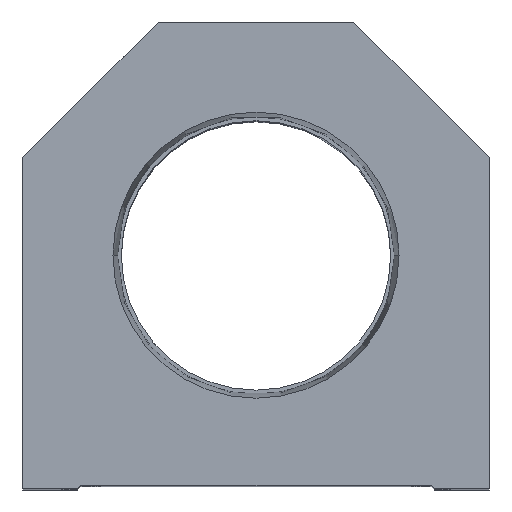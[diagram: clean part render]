
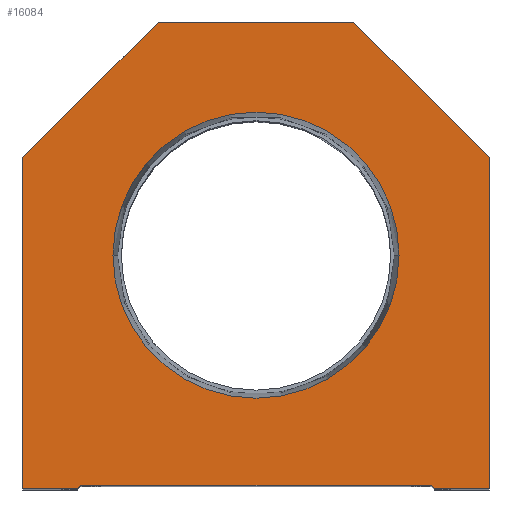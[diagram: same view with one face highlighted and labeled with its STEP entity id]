
A CAD part, top view. The second image highlights one B-rep face of the part: STEP entity #16084.
In plain terms, the highlighted planar face has unit normal (0, 0, 1).
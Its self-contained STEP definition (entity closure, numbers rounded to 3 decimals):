
#77 = DIRECTION ( 'NONE',  ( 0., 0., 1. ) ) ;
#100 = EDGE_CURVE ( 'NONE', #15852, #15869, #14889, .T. ) ;
#144 = VERTEX_POINT ( 'NONE', #17990 ) ;
#386 = VERTEX_POINT ( 'NONE', #16296 ) ;
#475 = VERTEX_POINT ( 'NONE', #17542 ) ;
#547 = VECTOR ( 'NONE', #2392, 1000. ) ;
#554 = VECTOR ( 'NONE', #14043, 1000. ) ;
#638 = CARTESIAN_POINT ( 'NONE',  ( 38.1, 54.1, 0. ) ) ;
#717 = VERTEX_POINT ( 'NONE', #8094 ) ;
#737 = DIRECTION ( 'NONE',  ( -1., 0., 0. ) ) ;
#849 = VECTOR ( 'NONE', #737, 1000. ) ;
#1797 = CIRCLE ( 'NONE', #15061, 23.374 ) ;
#1889 = AXIS2_PLACEMENT_3D ( 'NONE', #7056, #5214, #6859 ) ;
#2392 = DIRECTION ( 'NONE',  ( 1., 0., 0. ) ) ;
#2618 = ORIENTED_EDGE ( 'NONE', *, *, #100, .T. ) ;
#2648 = DIRECTION ( 'NONE',  ( 0.707, -0.707, 0. ) ) ;
#2651 = EDGE_CURVE ( 'NONE', #144, #3622, #5846, .T. ) ;
#3041 = CARTESIAN_POINT ( 'NONE',  ( -38.1, 0., 0. ) ) ;
#3321 = EDGE_LOOP ( 'NONE', ( #3494, #12179, #6730, #9535, #10028, #2618, #11641, #6638, #13936, #9076 ) ) ;
#3494 = ORIENTED_EDGE ( 'NONE', *, *, #6893, .T. ) ;
#3622 = VERTEX_POINT ( 'NONE', #9072 ) ;
#3718 = EDGE_CURVE ( 'NONE', #16559, #717, #9760, .T. ) ;
#3820 = VECTOR ( 'NONE', #2648, 1000. ) ;
#3840 = CARTESIAN_POINT ( 'NONE',  ( 38.1, 54.1, 0. ) ) ;
#3855 = CARTESIAN_POINT ( 'NONE',  ( -16., 76.2, 0. ) ) ;
#3990 = LINE ( 'NONE', #5621, #6335 ) ;
#4668 = VERTEX_POINT ( 'NONE', #3855 ) ;
#4677 = EDGE_CURVE ( 'NONE', #3622, #144, #1797, .T. ) ;
#5025 = AXIS2_PLACEMENT_3D ( 'NONE', #11625, #77, #14747 ) ;
#5214 = DIRECTION ( 'NONE',  ( 0., 0., 1. ) ) ;
#5240 = DIRECTION ( 'NONE',  ( -0.707, -0.707, 0. ) ) ;
#5529 = CARTESIAN_POINT ( 'NONE',  ( 14.55, 14.55, 0. ) ) ;
#5621 = CARTESIAN_POINT ( 'NONE',  ( -14.55, 14.55, 0. ) ) ;
#5667 = DIRECTION ( 'NONE',  ( 1., 0., 0. ) ) ;
#5772 = VECTOR ( 'NONE', #18601, 1000. ) ;
#5846 = CIRCLE ( 'NONE', #1889, 23.374 ) ;
#6335 = VECTOR ( 'NONE', #8528, 1000. ) ;
#6369 = VECTOR ( 'NONE', #10256, 1000. ) ;
#6397 = VECTOR ( 'NONE', #17942, 1000. ) ;
#6561 = CARTESIAN_POINT ( 'NONE',  ( -38.1, 0., 0. ) ) ;
#6565 = CARTESIAN_POINT ( 'NONE',  ( 28.6, 0.5, 0. ) ) ;
#6596 = LINE ( 'NONE', #9572, #16081 ) ;
#6638 = ORIENTED_EDGE ( 'NONE', *, *, #7108, .T. ) ;
#6730 = ORIENTED_EDGE ( 'NONE', *, *, #6922, .T. ) ;
#6859 = DIRECTION ( 'NONE',  ( 1., 0., 0. ) ) ;
#6893 = EDGE_CURVE ( 'NONE', #18456, #13817, #8465, .T. ) ;
#6922 = EDGE_CURVE ( 'NONE', #386, #16559, #14949, .T. ) ;
#7056 = CARTESIAN_POINT ( 'NONE',  ( 0., 38.1, 0. ) ) ;
#7108 = EDGE_CURVE ( 'NONE', #475, #4668, #15230, .T. ) ;
#7848 = CARTESIAN_POINT ( 'NONE',  ( 16., 76.2, 0. ) ) ;
#8094 = CARTESIAN_POINT ( 'NONE',  ( 29.1, 0., 0. ) ) ;
#8465 = LINE ( 'NONE', #9689, #547 ) ;
#8528 = DIRECTION ( 'NONE',  ( 0.707, 0.707, 0. ) ) ;
#8631 = FACE_OUTER_BOUND ( 'NONE', #3321, .T. ) ;
#9002 = EDGE_CURVE ( 'NONE', #717, #15852, #12005, .T. ) ;
#9072 = CARTESIAN_POINT ( 'NONE',  ( -23.374, 38.1, 0. ) ) ;
#9076 = ORIENTED_EDGE ( 'NONE', *, *, #18726, .T. ) ;
#9343 = DIRECTION ( 'NONE',  ( 0., -1., 0. ) ) ;
#9535 = ORIENTED_EDGE ( 'NONE', *, *, #3718, .T. ) ;
#9572 = CARTESIAN_POINT ( 'NONE',  ( -38.1, 54.1, 0. ) ) ;
#9689 = CARTESIAN_POINT ( 'NONE',  ( -28.6, 0., 0. ) ) ;
#9760 = LINE ( 'NONE', #5529, #3820 ) ;
#9793 = CARTESIAN_POINT ( 'NONE',  ( 38.1, 0., 0. ) ) ;
#10028 = ORIENTED_EDGE ( 'NONE', *, *, #9002, .T. ) ;
#10237 = PLANE ( 'NONE',  #5025 ) ;
#10256 = DIRECTION ( 'NONE',  ( 1., 0., 0. ) ) ;
#10494 = EDGE_LOOP ( 'NONE', ( #18315, #11091 ) ) ;
#11091 = ORIENTED_EDGE ( 'NONE', *, *, #4677, .F. ) ;
#11259 = EDGE_CURVE ( 'NONE', #4668, #13669, #6596, .T. ) ;
#11625 = CARTESIAN_POINT ( 'NONE',  ( 0., 0., 0. ) ) ;
#11641 = ORIENTED_EDGE ( 'NONE', *, *, #19129, .T. ) ;
#11680 = CARTESIAN_POINT ( 'NONE',  ( -29.1, 0., 0. ) ) ;
#11719 = FACE_BOUND ( 'NONE', #10494, .T. ) ;
#11902 = CARTESIAN_POINT ( 'NONE',  ( 28.6, 0., 0. ) ) ;
#12005 = LINE ( 'NONE', #11902, #6397 ) ;
#12179 = ORIENTED_EDGE ( 'NONE', *, *, #17676, .T. ) ;
#12403 = CARTESIAN_POINT ( 'NONE',  ( 38.1, 0., 0. ) ) ;
#13632 = LINE ( 'NONE', #6561, #14098 ) ;
#13669 = VERTEX_POINT ( 'NONE', #14525 ) ;
#13817 = VERTEX_POINT ( 'NONE', #11680 ) ;
#13936 = ORIENTED_EDGE ( 'NONE', *, *, #11259, .T. ) ;
#14043 = DIRECTION ( 'NONE',  ( 0., 1., 0. ) ) ;
#14098 = VECTOR ( 'NONE', #9343, 1000. ) ;
#14138 = LINE ( 'NONE', #638, #5772 ) ;
#14206 = DIRECTION ( 'NONE',  ( 0., 0., 1. ) ) ;
#14525 = CARTESIAN_POINT ( 'NONE',  ( -38.1, 54.1, 0. ) ) ;
#14747 = DIRECTION ( 'NONE',  ( 1., 0., 0. ) ) ;
#14889 = LINE ( 'NONE', #12403, #554 ) ;
#14949 = LINE ( 'NONE', #16221, #6369 ) ;
#15061 = AXIS2_PLACEMENT_3D ( 'NONE', #15765, #14206, #5667 ) ;
#15230 = LINE ( 'NONE', #7848, #849 ) ;
#15765 = CARTESIAN_POINT ( 'NONE',  ( 0., 38.1, 0. ) ) ;
#15852 = VERTEX_POINT ( 'NONE', #9793 ) ;
#15869 = VERTEX_POINT ( 'NONE', #3840 ) ;
#16081 = VECTOR ( 'NONE', #5240, 1000. ) ;
#16084 = ADVANCED_FACE ( 'NONE', ( #11719, #8631 ), #10237, .T. ) ;
#16221 = CARTESIAN_POINT ( 'NONE',  ( -28.6, 0.5, 0. ) ) ;
#16296 = CARTESIAN_POINT ( 'NONE',  ( -28.6, 0.5, 0. ) ) ;
#16559 = VERTEX_POINT ( 'NONE', #6565 ) ;
#17542 = CARTESIAN_POINT ( 'NONE',  ( 16., 76.2, 0. ) ) ;
#17676 = EDGE_CURVE ( 'NONE', #13817, #386, #3990, .T. ) ;
#17942 = DIRECTION ( 'NONE',  ( 1., 0., 0. ) ) ;
#17990 = CARTESIAN_POINT ( 'NONE',  ( 23.374, 38.1, 0. ) ) ;
#18315 = ORIENTED_EDGE ( 'NONE', *, *, #2651, .F. ) ;
#18456 = VERTEX_POINT ( 'NONE', #3041 ) ;
#18601 = DIRECTION ( 'NONE',  ( -0.707, 0.707, 0. ) ) ;
#18726 = EDGE_CURVE ( 'NONE', #13669, #18456, #13632, .T. ) ;
#19129 = EDGE_CURVE ( 'NONE', #15869, #475, #14138, .T. ) ;
